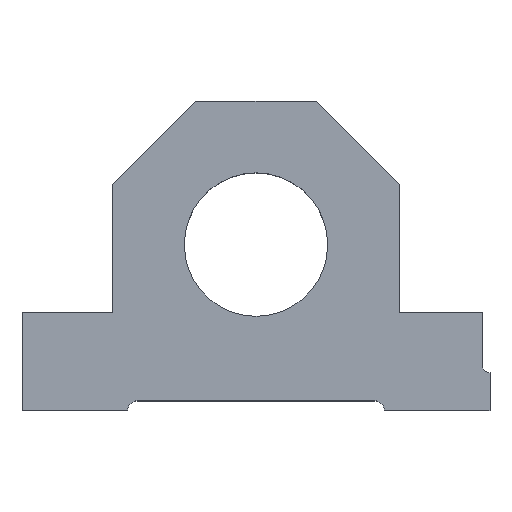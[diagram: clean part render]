
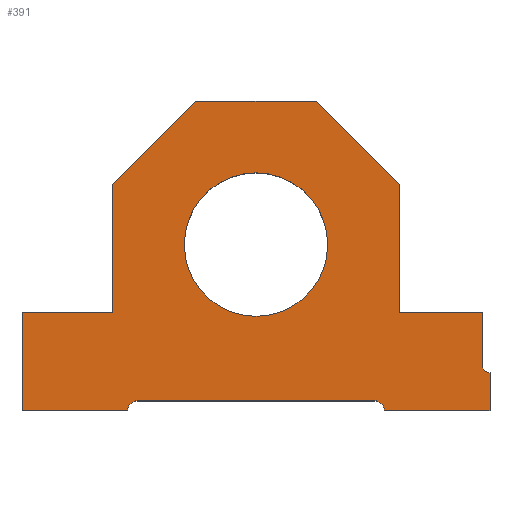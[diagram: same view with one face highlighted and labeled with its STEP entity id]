
A CAD part, top view. The second image highlights one B-rep face of the part: STEP entity #391.
In plain terms, the highlighted planar face has unit normal (0, 0, 1).
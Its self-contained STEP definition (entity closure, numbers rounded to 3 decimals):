
#1 = DIRECTION ( 'NONE',  ( 1., 0., 0. ) ) ;
#7 = LINE ( 'NONE', #8, #9 ) ;
#8 = CARTESIAN_POINT ( 'NONE',  ( 30., 6., 7.5 ) ) ;
#9 = VECTOR ( 'NONE', #10, 1000. ) ;
#10 = DIRECTION ( 'NONE',  ( 0., 1., 0. ) ) ;
#11 = CIRCLE ( 'NONE', #12, 1. ) ;
#12 = AXIS2_PLACEMENT_3D ( 'NONE', #13, #14, #15 ) ;
#13 = CARTESIAN_POINT ( 'NONE',  ( 31., 6., 7.5 ) ) ;
#14 = DIRECTION ( 'NONE',  ( 0., 0., -1. ) ) ;
#15 = DIRECTION ( 'NONE',  ( -1., 0., 0. ) ) ;
#16 = LINE ( 'NONE', #18, #19 ) ;
#17 = VERTEX_POINT ( 'NONE', #515 ) ;
#18 = CARTESIAN_POINT ( 'NONE',  ( 31., 0., 7.5 ) ) ;
#19 = VECTOR ( 'NONE', #20, 1000. ) ;
#20 = DIRECTION ( 'NONE',  ( 0., 1., 0. ) ) ;
#40 = LINE ( 'NONE', #41, #42 ) ;
#41 = CARTESIAN_POINT ( 'NONE',  ( -30., 13., 7.5 ) ) ;
#42 = VECTOR ( 'NONE', #43, 1000. ) ;
#43 = DIRECTION ( 'NONE',  ( -1., 0., 0. ) ) ;
#53 = CARTESIAN_POINT ( 'NONE',  ( 15.7, 1.3, 7.5 ) ) ;
#81 = CARTESIAN_POINT ( 'NONE',  ( 17., 0., 7.5 ) ) ;
#109 = CARTESIAN_POINT ( 'NONE',  ( 9.5, 22., 7.5 ) ) ;
#110 = CARTESIAN_POINT ( 'NONE',  ( -31., 0., 7.5 ) ) ;
#122 = CARTESIAN_POINT ( 'NONE',  ( 31., 0., 7.5 ) ) ;
#139 = LINE ( 'NONE', #140, #141 ) ;
#140 = CARTESIAN_POINT ( 'NONE',  ( -15.7, 1.3, 7.5 ) ) ;
#141 = VECTOR ( 'NONE', #142, 1000. ) ;
#142 = DIRECTION ( 'NONE',  ( 1., 0., 0. ) ) ;
#161 = CARTESIAN_POINT ( 'NONE',  ( 30., 13., 7.5 ) ) ;
#162 = CARTESIAN_POINT ( 'NONE',  ( 31., 5., 7.5 ) ) ;
#178 = CIRCLE ( 'NONE', #179, 1.3 ) ;
#179 = AXIS2_PLACEMENT_3D ( 'NONE', #180, #181, #182 ) ;
#180 = CARTESIAN_POINT ( 'NONE',  ( 15.7, 0., 7.5 ) ) ;
#181 = DIRECTION ( 'NONE',  ( 0., 0., -1. ) ) ;
#182 = DIRECTION ( 'NONE',  ( -1., 0., 0. ) ) ;
#199 = CARTESIAN_POINT ( 'NONE',  ( -9.5, 22., 7.5 ) ) ;
#200 = CARTESIAN_POINT ( 'NONE',  ( 30., 6., 7.5 ) ) ;
#201 = CARTESIAN_POINT ( 'NONE',  ( -31., 13., 7.5 ) ) ;
#202 = CARTESIAN_POINT ( 'NONE',  ( 19., 13., 7.5 ) ) ;
#203 = VERTEX_POINT ( 'NONE', #619 ) ;
#206 = LINE ( 'NONE', #207, #208 ) ;
#207 = CARTESIAN_POINT ( 'NONE',  ( 17., 0., 7.5 ) ) ;
#208 = VECTOR ( 'NONE', #209, 1000. ) ;
#209 = DIRECTION ( 'NONE',  ( 1., 0., 0. ) ) ;
#237 = EDGE_CURVE ( 'NONE', #380, #17, #644, .T. ) ;
#317 = EDGE_LOOP ( 'NONE', ( #622, #451 ) ) ;
#320 = ORIENTED_EDGE ( 'NONE', *, *, #786, .T. ) ;
#328 = ORIENTED_EDGE ( 'NONE', *, *, #237, .T. ) ;
#329 = EDGE_CURVE ( 'NONE', #421, #659, #40, .T. ) ;
#353 = VERTEX_POINT ( 'NONE', #161 ) ;
#354 = VERTEX_POINT ( 'NONE', #162 ) ;
#357 = ORIENTED_EDGE ( 'NONE', *, *, #329, .T. ) ;
#360 = EDGE_CURVE ( 'NONE', #470, #855, #178, .T. ) ;
#368 = EDGE_LOOP ( 'NONE', ( #832, #420, #402, #787, #404, #823, #427, #320, #426, #835, #452, #328, #474, #858, #492, #357 ) ) ;
#378 = EDGE_CURVE ( 'NONE', #481, #203, #775, .T. ) ;
#380 = VERTEX_POINT ( 'NONE', #779 ) ;
#381 = EDGE_CURVE ( 'NONE', #642, #353, #7, .T. ) ;
#382 = EDGE_CURVE ( 'NONE', #489, #354, #16, .T. ) ;
#391 = ADVANCED_FACE ( 'NONE', ( #543, #544 ), #545, .T. ) ;
#395 = VERTEX_POINT ( 'NONE', #567 ) ;
#402 = ORIENTED_EDGE ( 'NONE', *, *, #435, .T. ) ;
#403 = VERTEX_POINT ( 'NONE', #583 ) ;
#404 = ORIENTED_EDGE ( 'NONE', *, *, #360, .T. ) ;
#408 = EDGE_CURVE ( 'NONE', #480, #641, #597, .T. ) ;
#409 = EDGE_CURVE ( 'NONE', #660, #380, #602, .T. ) ;
#420 = ORIENTED_EDGE ( 'NONE', *, *, #378, .T. ) ;
#421 = VERTEX_POINT ( 'NONE', #650 ) ;
#426 = ORIENTED_EDGE ( 'NONE', *, *, #381, .T. ) ;
#427 = ORIENTED_EDGE ( 'NONE', *, *, #382, .T. ) ;
#429 = EDGE_CURVE ( 'NONE', #17, #395, #666, .T. ) ;
#435 = EDGE_CURVE ( 'NONE', #203, #403, #677, .T. ) ;
#451 = ORIENTED_EDGE ( 'NONE', *, *, #408, .F. ) ;
#452 = ORIENTED_EDGE ( 'NONE', *, *, #409, .T. ) ;
#453 = EDGE_CURVE ( 'NONE', #820, #421, #770, .T. ) ;
#470 = VERTEX_POINT ( 'NONE', #53 ) ;
#474 = ORIENTED_EDGE ( 'NONE', *, *, #429, .T. ) ;
#480 = VERTEX_POINT ( 'NONE', #109 ) ;
#481 = VERTEX_POINT ( 'NONE', #110 ) ;
#489 = VERTEX_POINT ( 'NONE', #122 ) ;
#492 = ORIENTED_EDGE ( 'NONE', *, *, #453, .T. ) ;
#514 = EDGE_CURVE ( 'NONE', #403, #470, #139, .T. ) ;
#515 = CARTESIAN_POINT ( 'NONE',  ( 8., 41., 7.5 ) ) ;
#523 = LINE ( 'NONE', #524, #525 ) ;
#524 = CARTESIAN_POINT ( 'NONE',  ( -31., 0., 7.5 ) ) ;
#525 = VECTOR ( 'NONE', #526, 1000. ) ;
#526 = DIRECTION ( 'NONE',  ( 0., -1., 0. ) ) ;
#527 = LINE ( 'NONE', #528, #529 ) ;
#528 = CARTESIAN_POINT ( 'NONE',  ( 30., 13., 7.5 ) ) ;
#529 = VECTOR ( 'NONE', #530, 1000. ) ;
#530 = DIRECTION ( 'NONE',  ( -1., 0., 0. ) ) ;
#543 = FACE_OUTER_BOUND ( 'NONE', #368, .T. ) ;
#544 = FACE_BOUND ( 'NONE', #317, .T. ) ;
#545 = PLANE ( 'NONE',  #546 ) ;
#546 = AXIS2_PLACEMENT_3D ( 'NONE', #547, #548, #549 ) ;
#547 = CARTESIAN_POINT ( 'NONE',  ( -31., 6., 7.5 ) ) ;
#548 = DIRECTION ( 'NONE',  ( 0., 0., 1. ) ) ;
#549 = DIRECTION ( 'NONE',  ( 1., 0., 0. ) ) ;
#567 = CARTESIAN_POINT ( 'NONE',  ( -8., 41., 7.5 ) ) ;
#583 = CARTESIAN_POINT ( 'NONE',  ( -15.7, 1.3, 7.5 ) ) ;
#597 = CIRCLE ( 'NONE', #598, 9.5 ) ;
#598 = AXIS2_PLACEMENT_3D ( 'NONE', #599, #600, #601 ) ;
#599 = CARTESIAN_POINT ( 'NONE',  ( 0., 22., 7.5 ) ) ;
#600 = DIRECTION ( 'NONE',  ( 0., 0., 1. ) ) ;
#601 = DIRECTION ( 'NONE',  ( 1., 0., 0. ) ) ;
#602 = LINE ( 'NONE', #603, #605 ) ;
#603 = CARTESIAN_POINT ( 'NONE',  ( 19., 13., 7.5 ) ) ;
#605 = VECTOR ( 'NONE', #606, 1000. ) ;
#606 = DIRECTION ( 'NONE',  ( 0., 1., 0. ) ) ;
#618 = CARTESIAN_POINT ( 'NONE',  ( -19., 30., 7.5 ) ) ;
#619 = CARTESIAN_POINT ( 'NONE',  ( -17., 0., 7.5 ) ) ;
#622 = ORIENTED_EDGE ( 'NONE', *, *, #783, .F. ) ;
#641 = VERTEX_POINT ( 'NONE', #199 ) ;
#642 = VERTEX_POINT ( 'NONE', #200 ) ;
#644 = LINE ( 'NONE', #645, #646 ) ;
#645 = CARTESIAN_POINT ( 'NONE',  ( 19., 30., 7.5 ) ) ;
#646 = VECTOR ( 'NONE', #647, 1000. ) ;
#647 = DIRECTION ( 'NONE',  ( -0.707, 0.707, 0. ) ) ;
#650 = CARTESIAN_POINT ( 'NONE',  ( -19., 13., 7.5 ) ) ;
#659 = VERTEX_POINT ( 'NONE', #201 ) ;
#660 = VERTEX_POINT ( 'NONE', #202 ) ;
#666 = LINE ( 'NONE', #667, #668 ) ;
#667 = CARTESIAN_POINT ( 'NONE',  ( -8., 41., 7.5 ) ) ;
#668 = VECTOR ( 'NONE', #669, 1000. ) ;
#669 = DIRECTION ( 'NONE',  ( -1., 0., 0. ) ) ;
#677 = CIRCLE ( 'NONE', #678, 1.3 ) ;
#678 = AXIS2_PLACEMENT_3D ( 'NONE', #679, #680, #681 ) ;
#679 = CARTESIAN_POINT ( 'NONE',  ( -15.7, 0., 7.5 ) ) ;
#680 = DIRECTION ( 'NONE',  ( 0., 0., -1. ) ) ;
#681 = DIRECTION ( 'NONE',  ( 1., 0., 0. ) ) ;
#698 = EDGE_CURVE ( 'NONE', #855, #489, #206, .T. ) ;
#712 = LINE ( 'NONE', #713, #714 ) ;
#713 = CARTESIAN_POINT ( 'NONE',  ( -19., 30., 7.5 ) ) ;
#714 = VECTOR ( 'NONE', #717, 1000. ) ;
#717 = DIRECTION ( 'NONE',  ( -0.707, -0.707, 0. ) ) ;
#770 = LINE ( 'NONE', #771, #772 ) ;
#771 = CARTESIAN_POINT ( 'NONE',  ( -19., 13., 7.5 ) ) ;
#772 = VECTOR ( 'NONE', #773, 1000. ) ;
#773 = DIRECTION ( 'NONE',  ( 0., -1., 0. ) ) ;
#775 = LINE ( 'NONE', #776, #777 ) ;
#776 = CARTESIAN_POINT ( 'NONE',  ( -17., 0., 7.5 ) ) ;
#777 = VECTOR ( 'NONE', #778, 1000. ) ;
#778 = DIRECTION ( 'NONE',  ( 1., 0., 0. ) ) ;
#779 = CARTESIAN_POINT ( 'NONE',  ( 19., 30., 7.5 ) ) ;
#783 = EDGE_CURVE ( 'NONE', #641, #480, #804, .T. ) ;
#786 = EDGE_CURVE ( 'NONE', #354, #642, #11, .T. ) ;
#787 = ORIENTED_EDGE ( 'NONE', *, *, #514, .T. ) ;
#804 = CIRCLE ( 'NONE', #805, 9.5 ) ;
#805 = AXIS2_PLACEMENT_3D ( 'NONE', #806, #807, #1 ) ;
#806 = CARTESIAN_POINT ( 'NONE',  ( 0., 22., 7.5 ) ) ;
#807 = DIRECTION ( 'NONE',  ( 0., 0., 1. ) ) ;
#810 = EDGE_CURVE ( 'NONE', #659, #481, #523, .T. ) ;
#813 = EDGE_CURVE ( 'NONE', #353, #660, #527, .T. ) ;
#820 = VERTEX_POINT ( 'NONE', #618 ) ;
#823 = ORIENTED_EDGE ( 'NONE', *, *, #698, .T. ) ;
#832 = ORIENTED_EDGE ( 'NONE', *, *, #810, .T. ) ;
#835 = ORIENTED_EDGE ( 'NONE', *, *, #813, .T. ) ;
#837 = EDGE_CURVE ( 'NONE', #395, #820, #712, .T. ) ;
#855 = VERTEX_POINT ( 'NONE', #81 ) ;
#858 = ORIENTED_EDGE ( 'NONE', *, *, #837, .T. ) ;
